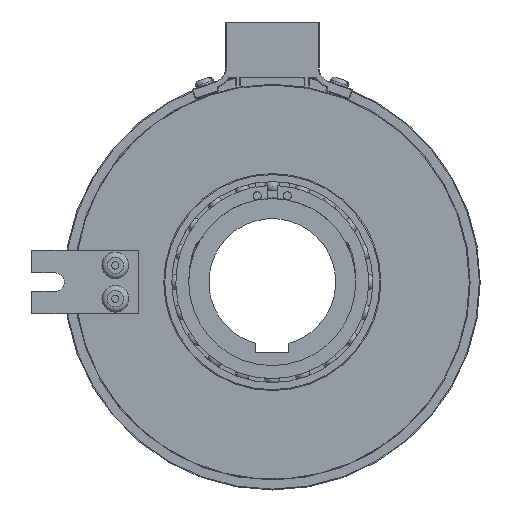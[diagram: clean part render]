
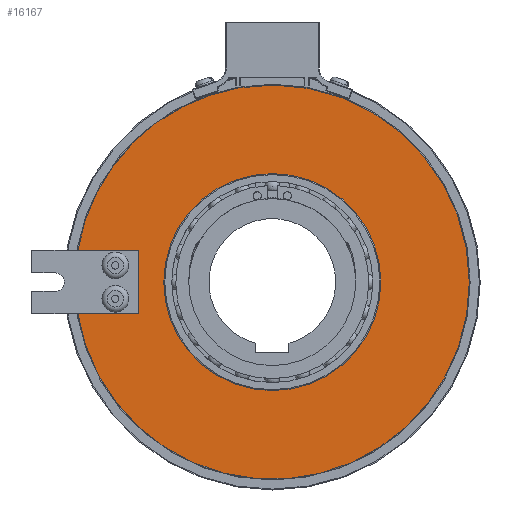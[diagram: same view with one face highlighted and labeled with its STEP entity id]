
A CAD part, left-side view. The second image highlights one B-rep face of the part: STEP entity #16167.
In plain terms, the highlighted planar face has unit normal (-1, 0, 0).
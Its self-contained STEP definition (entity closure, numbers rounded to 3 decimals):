
#487=PLANE('',#18120);
#701=FACE_BOUND('',#2867,.T.);
#1905=FACE_OUTER_BOUND('',#2866,.T.);
#2866=EDGE_LOOP('',(#13871,#13872,#13873,#13874,#13875,#13876));
#2867=EDGE_LOOP('',(#13877,#13878));
#3076=CIRCLE('',#16339,59.);
#3079=CIRCLE('',#16342,59.);
#4207=CIRCLE('',#18096,32.5);
#4208=CIRCLE('',#18097,32.5);
#4220=CIRCLE('',#18119,59.);
#4858=LINE('',#31325,#5438);
#4875=LINE('',#31362,#5455);
#4878=LINE('',#31366,#5458);
#5438=VECTOR('',#22012,10.);
#5455=VECTOR('',#22045,10.);
#5458=VECTOR('',#22050,10.);
#5611=VERTEX_POINT('',#23407);
#5616=VERTEX_POINT('',#23417);
#5617=VERTEX_POINT('',#23419);
#5619=VERTEX_POINT('',#23423);
#6804=VERTEX_POINT('',#31324);
#6816=VERTEX_POINT('',#31360);
#7043=VERTEX_POINT('',#34084);
#7044=VERTEX_POINT('',#34085);
#7314=EDGE_CURVE('',#5617,#5616,#3076,.T.);
#7317=EDGE_CURVE('',#5611,#5619,#3079,.T.);
#9071=EDGE_CURVE('',#6804,#5617,#4858,.T.);
#9090=EDGE_CURVE('',#5619,#6816,#4875,.T.);
#9093=EDGE_CURVE('',#6816,#6804,#4878,.T.);
#9388=EDGE_CURVE('',#7043,#7044,#4207,.T.);
#9390=EDGE_CURVE('',#7044,#7043,#4208,.T.);
#9408=EDGE_CURVE('',#5616,#5611,#4220,.T.);
#13871=ORIENTED_EDGE('',*,*,#9071,.T.);
#13872=ORIENTED_EDGE('',*,*,#7314,.T.);
#13873=ORIENTED_EDGE('',*,*,#9408,.T.);
#13874=ORIENTED_EDGE('',*,*,#7317,.T.);
#13875=ORIENTED_EDGE('',*,*,#9090,.T.);
#13876=ORIENTED_EDGE('',*,*,#9093,.T.);
#13877=ORIENTED_EDGE('',*,*,#9388,.F.);
#13878=ORIENTED_EDGE('',*,*,#9390,.F.);
#16167=ADVANCED_FACE('',(#1905,#701),#487,.T.);
#16339=AXIS2_PLACEMENT_3D('',#23420,#18510,#18511);
#16342=AXIS2_PLACEMENT_3D('',#23425,#18516,#18517);
#18096=AXIS2_PLACEMENT_3D('',#34086,#22453,#22454);
#18097=AXIS2_PLACEMENT_3D('',#34088,#22456,#22457);
#18119=AXIS2_PLACEMENT_3D('',#34159,#22504,#22505);
#18120=AXIS2_PLACEMENT_3D('',#34161,#22507,#22508);
#18510=DIRECTION('center_axis',(-1.,0.,0.));
#18511=DIRECTION('ref_axis',(0.,1.,0.));
#18516=DIRECTION('center_axis',(-1.,0.,0.));
#18517=DIRECTION('ref_axis',(0.,1.,0.));
#22012=DIRECTION('',(0.,1.,0.));
#22045=DIRECTION('',(0.,-1.,0.));
#22050=DIRECTION('',(0.,0.,-1.));
#22453=DIRECTION('center_axis',(-1.,0.,0.));
#22454=DIRECTION('ref_axis',(0.,1.,0.));
#22456=DIRECTION('center_axis',(-1.,0.,0.));
#22457=DIRECTION('ref_axis',(0.,1.,0.));
#22504=DIRECTION('center_axis',(-1.,0.,0.));
#22505=DIRECTION('ref_axis',(0.,1.,0.));
#22507=DIRECTION('center_axis',(-1.,0.,0.));
#22508=DIRECTION('ref_axis',(0.,0.,
1.));
#23407=CARTESIAN_POINT('',(-17.95,9.667,58.203));
#23417=CARTESIAN_POINT('',(-17.95,-59.,0.));
#23419=CARTESIAN_POINT('',(-17.95,58.23,-9.5));
#23420=CARTESIAN_POINT('Origin',(-17.95,0.,0.));
#23423=CARTESIAN_POINT('',(-17.95,58.23,9.5));
#23425=CARTESIAN_POINT('Origin',(-17.95,0.,0.));
#31324=CARTESIAN_POINT('',(-17.95,40.,-9.5));
#31325=CARTESIAN_POINT('',(-17.95,42.875,-9.5));
#31360=CARTESIAN_POINT('',(-17.95,40.,9.5));
#31362=CARTESIAN_POINT('',(-17.95,58.875,9.5));
#31366=CARTESIAN_POINT('',(-17.95,40.,4.75));
#34084=CARTESIAN_POINT('',(-17.95,32.5,0.));
#34085=CARTESIAN_POINT('',(-17.95,-32.5,0.));
#34086=CARTESIAN_POINT('Origin',(-17.95,0.,0.));
#34088=CARTESIAN_POINT('Origin',(-17.95,0.,0.));
#34159=CARTESIAN_POINT('Origin',(-17.95,0.,0.));
#34161=CARTESIAN_POINT('Origin',(-17.95,45.75,0.));
